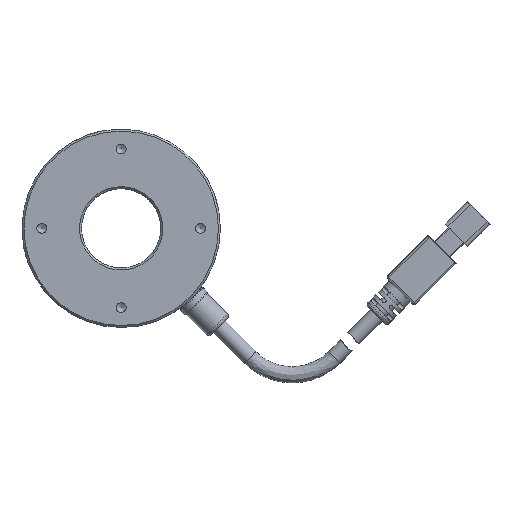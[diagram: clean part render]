
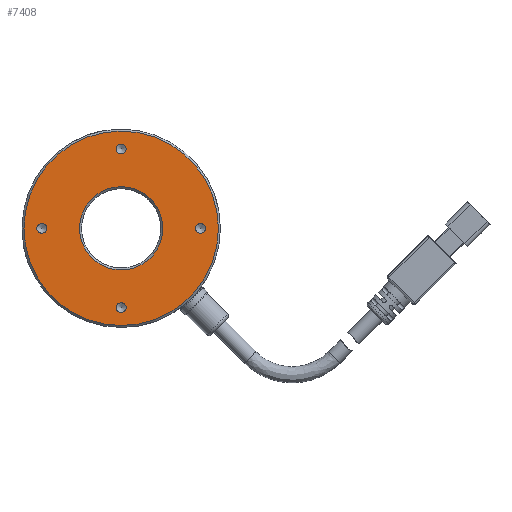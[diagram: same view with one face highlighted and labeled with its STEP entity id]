
A CAD part, front view. The second image highlights one B-rep face of the part: STEP entity #7408.
In plain terms, the highlighted planar face has unit normal (0, -1, 0).
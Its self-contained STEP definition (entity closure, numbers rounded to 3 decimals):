
#435 = AXIS2_PLACEMENT_3D ( 'NONE', #9143, #6838, #6885 ) ;
#572 = DIRECTION ( 'NONE',  ( 0., 1., 0. ) ) ;
#677 = CARTESIAN_POINT ( 'NONE',  ( -4.026, -29.834, 21.25 ) ) ;
#748 = DIRECTION ( 'NONE',  ( 0., 0., -1. ) ) ;
#901 = VERTEX_POINT ( 'NONE', #5497 ) ;
#1280 = DIRECTION ( 'NONE',  ( 0., 1., 0. ) ) ;
#1413 = AXIS2_PLACEMENT_3D ( 'NONE', #14070, #7405, #748 ) ;
#1625 = AXIS2_PLACEMENT_3D ( 'NONE', #9820, #5221, #9763 ) ;
#1638 = EDGE_LOOP ( 'NONE', ( #11112 ) ) ;
#1800 = CARTESIAN_POINT ( 'NONE',  ( -24.026, -29.834, 0. ) ) ;
#1889 = PLANE ( 'NONE',  #1625 ) ;
#1956 = CARTESIAN_POINT ( 'NONE',  ( -4.026, -29.834, -10.5 ) ) ;
#2284 = AXIS2_PLACEMENT_3D ( 'NONE', #1800, #572, #11670 ) ;
#2392 = ORIENTED_EDGE ( 'NONE', *, *, #2991, .F. ) ;
#2991 = EDGE_CURVE ( 'NONE', #7515, #7515, #14188, .T. ) ;
#3154 = EDGE_CURVE ( 'NONE', #5435, #5435, #8430, .T. ) ;
#3325 = CIRCLE ( 'NONE', #1413, 10.5 ) ;
#3439 = CIRCLE ( 'NONE', #9875, 1.25 ) ;
#3634 = EDGE_LOOP ( 'NONE', ( #13469 ) ) ;
#3639 = DIRECTION ( 'NONE',  ( 0., 1., 0. ) ) ;
#3664 = VERTEX_POINT ( 'NONE', #4323 ) ;
#3941 = EDGE_LOOP ( 'NONE', ( #12636 ) ) ;
#4323 = CARTESIAN_POINT ( 'NONE',  ( -4.026, -29.834, -18.75 ) ) ;
#4552 = VERTEX_POINT ( 'NONE', #6156 ) ;
#4582 = EDGE_CURVE ( 'NONE', #5610, #5610, #3325, .T. ) ;
#4661 = DIRECTION ( 'NONE',  ( 0., 0., 1. ) ) ;
#5124 = FACE_BOUND ( 'NONE', #6742, .T. ) ;
#5221 = DIRECTION ( 'NONE',  ( 0., 1., 0. ) ) ;
#5435 = VERTEX_POINT ( 'NONE', #677 ) ;
#5497 = CARTESIAN_POINT ( 'NONE',  ( 15.974, -29.834, 1.25 ) ) ;
#5610 = VERTEX_POINT ( 'NONE', #1956 ) ;
#5863 = AXIS2_PLACEMENT_3D ( 'NONE', #8824, #12187, #8871 ) ;
#5892 = EDGE_CURVE ( 'NONE', #4552, #4552, #11860, .T. ) ;
#6156 = CARTESIAN_POINT ( 'NONE',  ( -24.026, -29.834, 1.25 ) ) ;
#6742 = EDGE_LOOP ( 'NONE', ( #13160 ) ) ;
#6838 = DIRECTION ( 'NONE',  ( 0., 1., 0. ) ) ;
#6885 = DIRECTION ( 'NONE',  ( 0., 0., 1. ) ) ;
#7405 = DIRECTION ( 'NONE',  ( 0., -1., 0. ) ) ;
#7408 = ADVANCED_FACE ( 'NONE', ( #10715, #7929, #7762, #10366, #11942, #5124 ), #1889, .F. ) ;
#7515 = VERTEX_POINT ( 'NONE', #11932 ) ;
#7525 = CIRCLE ( 'NONE', #435, 1.25 ) ;
#7762 = FACE_BOUND ( 'NONE', #3941, .T. ) ;
#7844 = DIRECTION ( 'NONE',  ( 0., 0., 1. ) ) ;
#7929 = FACE_BOUND ( 'NONE', #12110, .T. ) ;
#8197 = ORIENTED_EDGE ( 'NONE', *, *, #4582, .F. ) ;
#8430 = CIRCLE ( 'NONE', #10350, 1.25 ) ;
#8824 = CARTESIAN_POINT ( 'NONE',  ( -4.026, -29.834, 0. ) ) ;
#8871 = DIRECTION ( 'NONE',  ( -1., 0., 0. ) ) ;
#8998 = EDGE_CURVE ( 'NONE', #901, #901, #7525, .T. ) ;
#9143 = CARTESIAN_POINT ( 'NONE',  ( 15.974, -29.834, 0. ) ) ;
#9763 = DIRECTION ( 'NONE',  ( 0., 0., 1. ) ) ;
#9820 = CARTESIAN_POINT ( 'NONE',  ( -14.026, -29.834, 0. ) ) ;
#9875 = AXIS2_PLACEMENT_3D ( 'NONE', #12614, #3639, #4661 ) ;
#10350 = AXIS2_PLACEMENT_3D ( 'NONE', #13498, #1280, #7844 ) ;
#10366 = FACE_BOUND ( 'NONE', #3634, .T. ) ;
#10715 = FACE_OUTER_BOUND ( 'NONE', #12276, .T. ) ;
#11112 = ORIENTED_EDGE ( 'NONE', *, *, #3154, .T. ) ;
#11670 = DIRECTION ( 'NONE',  ( 0., 0., 1. ) ) ;
#11860 = CIRCLE ( 'NONE', #2284, 1.25 ) ;
#11932 = CARTESIAN_POINT ( 'NONE',  ( -28.526, -29.834, 0. ) ) ;
#11942 = FACE_BOUND ( 'NONE', #1638, .T. ) ;
#12110 = EDGE_LOOP ( 'NONE', ( #8197 ) ) ;
#12187 = DIRECTION ( 'NONE',  ( 0., 1., 0. ) ) ;
#12276 = EDGE_LOOP ( 'NONE', ( #2392 ) ) ;
#12614 = CARTESIAN_POINT ( 'NONE',  ( -4.026, -29.834, -20. ) ) ;
#12636 = ORIENTED_EDGE ( 'NONE', *, *, #12709, .T. ) ;
#12709 = EDGE_CURVE ( 'NONE', #3664, #3664, #3439, .T. ) ;
#13160 = ORIENTED_EDGE ( 'NONE', *, *, #8998, .T. ) ;
#13469 = ORIENTED_EDGE ( 'NONE', *, *, #5892, .T. ) ;
#13498 = CARTESIAN_POINT ( 'NONE',  ( -4.026, -29.834, 20. ) ) ;
#14070 = CARTESIAN_POINT ( 'NONE',  ( -4.026, -29.834, 0. ) ) ;
#14188 = CIRCLE ( 'NONE', #5863, 24.5 ) ;
